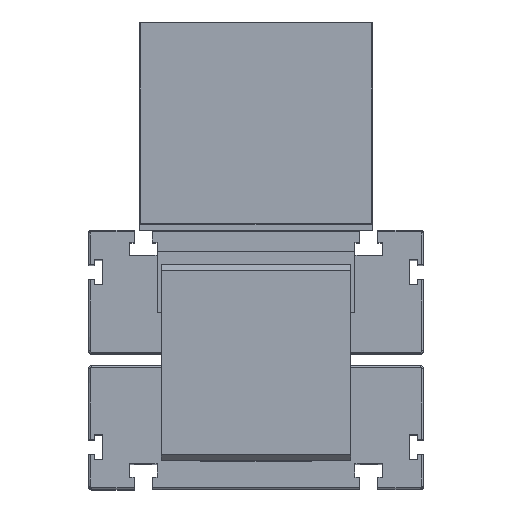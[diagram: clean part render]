
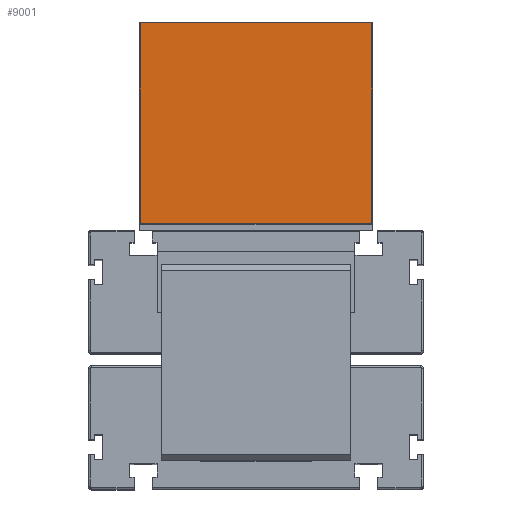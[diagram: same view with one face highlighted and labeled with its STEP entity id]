
A CAD part, top view. The second image highlights one B-rep face of the part: STEP entity #9001.
In plain terms, the highlighted planar face has unit normal (0, 0, 1).
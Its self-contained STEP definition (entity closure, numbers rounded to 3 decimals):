
#288 = ORIENTED_EDGE ( 'NONE', *, *, #3364, .T. ) ;
#823 = CARTESIAN_POINT ( 'NONE',  ( 79.5, 138.5, 155. ) ) ;
#833 = ORIENTED_EDGE ( 'NONE', *, *, #16429, .T. ) ;
#2014 = ORIENTED_EDGE ( 'NONE', *, *, #10086, .T. ) ;
#2534 = AXIS2_PLACEMENT_3D ( 'NONE', #9473, #14086, #13793 ) ;
#2913 = LINE ( 'NONE', #6330, #7148 ) ;
#3364 = EDGE_CURVE ( 'NONE', #6453, #12587, #2913, .T. ) ;
#5431 = CARTESIAN_POINT ( 'NONE',  ( -79.5, 0., 155. ) ) ;
#5554 = EDGE_CURVE ( 'NONE', #5911, #6453, #10045, .T. ) ;
#5911 = VERTEX_POINT ( 'NONE', #14599 ) ;
#5981 = FACE_OUTER_BOUND ( 'NONE', #11796, .T. ) ;
#6330 = CARTESIAN_POINT ( 'NONE',  ( 80., 138.5, 155. ) ) ;
#6453 = VERTEX_POINT ( 'NONE', #823 ) ;
#6534 = PLANE ( 'NONE',  #2534 ) ;
#7148 = VECTOR ( 'NONE', #7503, 1000. ) ;
#7503 = DIRECTION ( 'NONE',  ( -1., 0., 0. ) ) ;
#8037 = ORIENTED_EDGE ( 'NONE', *, *, #5554, .T. ) ;
#9001 = ADVANCED_FACE ( 'NONE', ( #5981 ), #6534, .F. ) ;
#9473 = CARTESIAN_POINT ( 'NONE',  ( 80., 0., 155. ) ) ;
#10045 = LINE ( 'NONE', #16024, #14061 ) ;
#10086 = EDGE_CURVE ( 'NONE', #17681, #5911, #19304, .T. ) ;
#10322 = CARTESIAN_POINT ( 'NONE',  ( -79.5, 0.5, 155. ) ) ;
#10483 = CARTESIAN_POINT ( 'NONE',  ( 80., 0.5, 155. ) ) ;
#11408 = DIRECTION ( 'NONE',  ( 0., -1., 0. ) ) ;
#11796 = EDGE_LOOP ( 'NONE', ( #8037, #288, #833, #2014 ) ) ;
#12348 = DIRECTION ( 'NONE',  ( 0., 1., 0. ) ) ;
#12587 = VERTEX_POINT ( 'NONE', #18429 ) ;
#12900 = VECTOR ( 'NONE', #14890, 1000. ) ;
#13793 = DIRECTION ( 'NONE',  ( -1., 0., 0. ) ) ;
#14061 = VECTOR ( 'NONE', #12348, 1000. ) ;
#14086 = DIRECTION ( 'NONE',  ( 0., 0., -1. ) ) ;
#14599 = CARTESIAN_POINT ( 'NONE',  ( 79.5, 0.5, 155. ) ) ;
#14890 = DIRECTION ( 'NONE',  ( 1., 0., 0. ) ) ;
#16024 = CARTESIAN_POINT ( 'NONE',  ( 79.5, 139., 155. ) ) ;
#16429 = EDGE_CURVE ( 'NONE', #12587, #17681, #18844, .T. ) ;
#17072 = VECTOR ( 'NONE', #11408, 1000. ) ;
#17681 = VERTEX_POINT ( 'NONE', #10322 ) ;
#18429 = CARTESIAN_POINT ( 'NONE',  ( -79.5, 138.5, 155. ) ) ;
#18844 = LINE ( 'NONE', #5431, #17072 ) ;
#19304 = LINE ( 'NONE', #10483, #12900 ) ;
